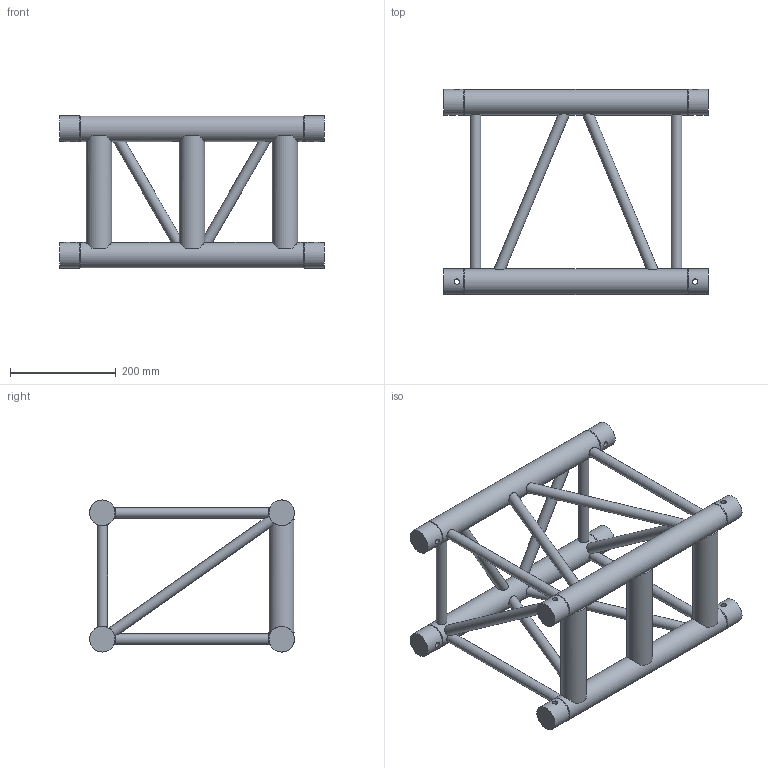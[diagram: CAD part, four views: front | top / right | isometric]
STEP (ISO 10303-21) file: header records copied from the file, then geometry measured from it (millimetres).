
FILE_DESCRIPTION(/* description */ (''),/* implementation_level */ '2;1');
FILE_NAME(/* name */ 'C:\Users\adrian.toca\Desktop\211050055.stp',/* time_stamp */ '2016-09-16T16:43:29+03:00',/* author */ ('adrian.toca'),/* organization */ (''),/* preprocessor_version */ 'ST-DEVELOPER v15.6',/* originating_system */ 'Autodesk Inventor 2015',/* authorisation */ '');
FILE_SCHEMA (('AUTOMOTIVE_DESIGN { 1 0 10303 214 3 1 1 }'));
Length unit declared in the file: millimetre
Products named in the file (1): 260030915
Bounding box: 500 x 387.3 x 287.3 mm (x, y, z)
Volume: 5967487.1 mm3; surface area: 670429.9 mm2
Topology: 9 solids, 9 shells, 131 faces, 305 edges, 190 vertices
Faces by surface type: plane 76, cylinder 47, cone 8
Full cylindrical faces by diameter (mm): 10 x8, 20 x14, 48.3 x15
Entity records: 4376 total; most frequent: CARTESIAN_POINT 1532, DIRECTION 558, ORIENTED_EDGE 476, AXIS2_PLACEMENT_3D 262, EDGE_CURVE 224, EDGE_LOOP 222, VERTEX_POINT 168, STYLED_ITEM 122
